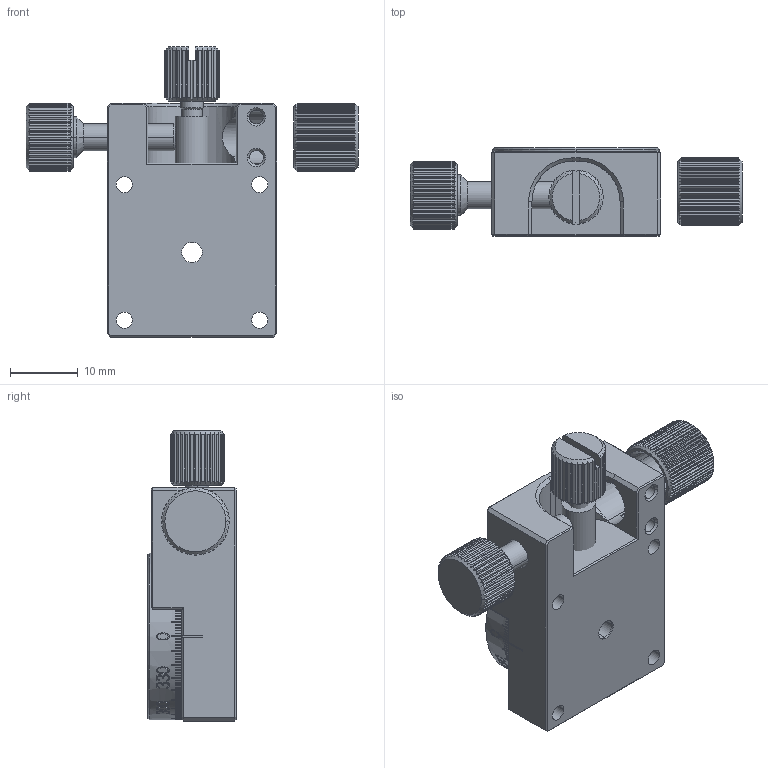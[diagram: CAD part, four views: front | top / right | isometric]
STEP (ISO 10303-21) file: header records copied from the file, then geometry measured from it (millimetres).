
FILE_DESCRIPTION((''),'2;1');
FILE_NAME('ASSY-25-L_ASM_ASM','2021-06-03T18:53:53',('windows10'),(''),'CREO PARAMETRIC BY PTC INC, 2018260','CREO PARAMETRIC BY PTC INC, 2018260','');
FILE_SCHEMA(('CONFIG_CONTROL_DESIGN'));
Products named in the file (8): BOTTOM-25-L_53; TOP-25_32; LEVER-5-M4-M3-15_23; STOPPER-M3-8-8_4; HANDLE-10-M4S-22_31; STOPPER-COVER-10-M8S-10_8; ASSY-25-L_ASM_67_ASM; ASSY-25-L_ASM_ASM
Assembly tree (7 placements, depth 3):
  ASSY-25-L_ASM_ASM
    ASSY-25-L_ASM_67_ASM
      BOTTOM-25-L_53
      TOP-25_32
      LEVER-5-M4-M3-15_23
      STOPPER-M3-8-8_4
      HANDLE-10-M4S-22_31
      STOPPER-COVER-10-M8S-10_8
Bounding box: 49 x 13 x 42.84 mm (x, y, z)
Volume: 13404.6 mm3; surface area: 8027.8 mm2
Topology: 6 solids, 6 shells, 1972 faces, 5808 edges, 3879 vertices
Faces by surface type: plane 1649, cylinder 236, cone 87
Entity records: 67499 total; most frequent: CARTESIAN_POINT 16732, ORIENTED_EDGE 11616, DIRECTION 9283, EDGE_CURVE 5808, VERTEX_POINT 3879, VECTOR 3155, LINE 3155, AXIS2_PLACEMENT_3D 3064
